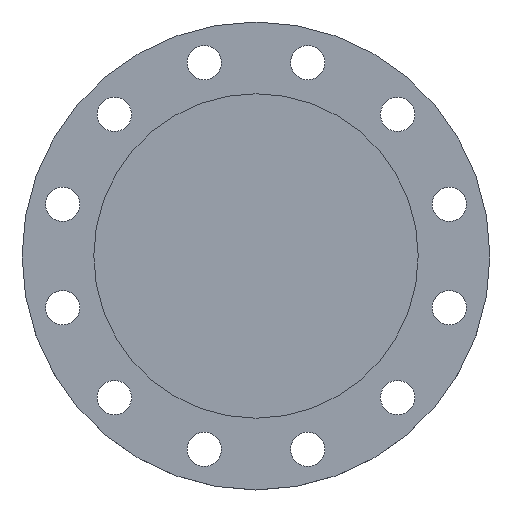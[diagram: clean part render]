
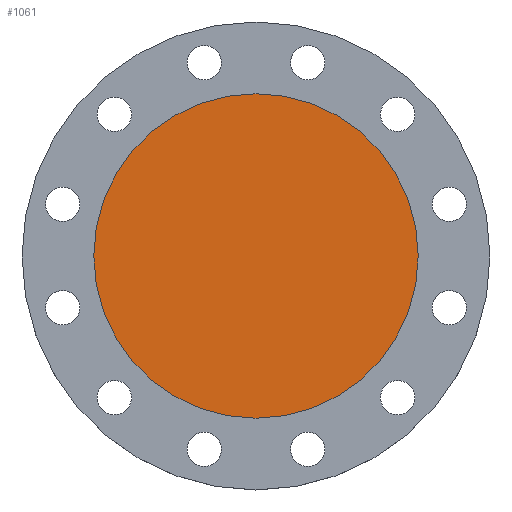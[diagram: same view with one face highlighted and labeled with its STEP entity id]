
A CAD part, top view. The second image highlights one B-rep face of the part: STEP entity #1061.
In plain terms, the highlighted planar face has unit normal (0, 0, 1).
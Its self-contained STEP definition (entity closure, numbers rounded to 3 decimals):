
#129 = CARTESIAN_POINT ( 'NONE',  ( 156., 0., 0. ) ) ;
#165 = CARTESIAN_POINT ( 'NONE',  ( -156., 0., 0. ) ) ;
#270 = DIRECTION ( 'NONE',  ( 1., 0., 0. ) ) ;
#271 = DIRECTION ( 'NONE',  ( 0., 0., 1. ) ) ;
#273 = CARTESIAN_POINT ( 'NONE',  ( 0., 0., 0. ) ) ;
#275 = PLANE ( 'NONE',  #352 ) ;
#276 = FACE_OUTER_BOUND ( 'NONE', #1230, .T. ) ;
#351 = DIRECTION ( 'NONE',  ( -1., 0., 0. ) ) ;
#352 = AXIS2_PLACEMENT_3D ( 'NONE', #273, #271, #270 ) ;
#354 = DIRECTION ( 'NONE',  ( 0., 0., -1. ) ) ;
#357 = CARTESIAN_POINT ( 'NONE',  ( 0., 0., 0. ) ) ;
#473 = EDGE_CURVE ( 'NONE', #1099, #1127, #728, .T. ) ;
#545 = AXIS2_PLACEMENT_3D ( 'NONE', #357, #354, #351 ) ;
#551 = CIRCLE ( 'NONE', #545, 156. ) ;
#638 = DIRECTION ( 'NONE',  ( -1., 0., 0. ) ) ;
#640 = DIRECTION ( 'NONE',  ( 0., 0., -1. ) ) ;
#641 = CARTESIAN_POINT ( 'NONE',  ( 0., 0., 0. ) ) ;
#725 = AXIS2_PLACEMENT_3D ( 'NONE', #641, #640, #638 ) ;
#728 = CIRCLE ( 'NONE', #725, 156. ) ;
#879 = ORIENTED_EDGE ( 'NONE', *, *, #473, .F. ) ;
#880 = ORIENTED_EDGE ( 'NONE', *, *, #1029, .F. ) ;
#1029 = EDGE_CURVE ( 'NONE', #1127, #1099, #551, .T. ) ;
#1061 = ADVANCED_FACE ( 'NONE', ( #276 ), #275, .T. ) ;
#1099 = VERTEX_POINT ( 'NONE', #165 ) ;
#1127 = VERTEX_POINT ( 'NONE', #129 ) ;
#1230 = EDGE_LOOP ( 'NONE', ( #879, #880 ) ) ;
